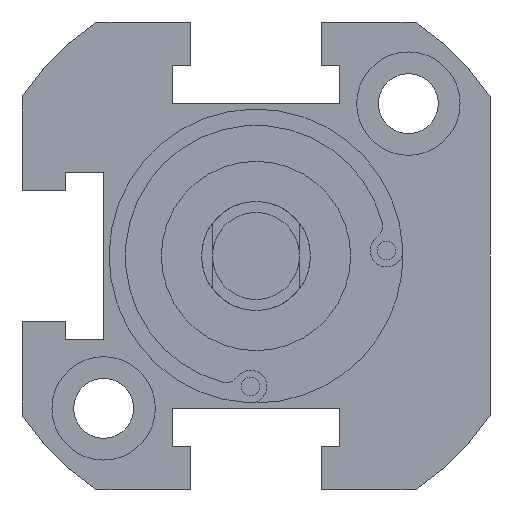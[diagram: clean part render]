
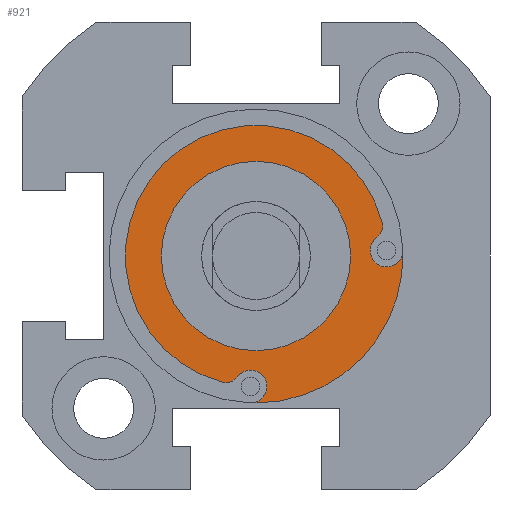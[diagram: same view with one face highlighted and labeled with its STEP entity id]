
A CAD part, front view. The second image highlights one B-rep face of the part: STEP entity #921.
In plain terms, the highlighted planar face has unit normal (0, -1, 0).
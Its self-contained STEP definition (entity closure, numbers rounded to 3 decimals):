
#18 = CIRCLE ( 'NONE', #101, 1.5 ) ;
#78 = AXIS2_PLACEMENT_3D ( 'NONE', #944, #3058, #151 ) ;
#101 = AXIS2_PLACEMENT_3D ( 'NONE', #3079, #945, #2713 ) ;
#150 = CIRCLE ( 'NONE', #1636, 12. ) ;
#151 = DIRECTION ( 'NONE',  ( 0., 0., 1. ) ) ;
#152 = CARTESIAN_POINT ( 'NONE',  ( 0., -35.5, 0. ) ) ;
#161 = EDGE_CURVE ( 'NONE', #1587, #822, #657, .T. ) ;
#181 = ORIENTED_EDGE ( 'NONE', *, *, #1681, .T. ) ;
#183 = AXIS2_PLACEMENT_3D ( 'NONE', #1350, #1337, #1030 ) ;
#247 = CARTESIAN_POINT ( 'NONE',  ( -2.754, -35.5, -10.339 ) ) ;
#402 = VERTEX_POINT ( 'NONE', #452 ) ;
#452 = CARTESIAN_POINT ( 'NONE',  ( -0.444, -35.5, -13.493 ) ) ;
#502 = DIRECTION ( 'NONE',  ( 0., 0., 1. ) ) ;
#505 = CARTESIAN_POINT ( 'NONE',  ( 10.339, -35.5, 2.754 ) ) ;
#510 = CARTESIAN_POINT ( 'NONE',  ( -3.089, -35.5, -11.596 ) ) ;
#568 = CARTESIAN_POINT ( 'NONE',  ( -2.754, -35.5, -10.339 ) ) ;
#657 = CIRCLE ( 'NONE', #1753, 8.7 ) ;
#665 = CARTESIAN_POINT ( 'NONE',  ( 0., -35.5, 8.7 ) ) ;
#669 = VERTEX_POINT ( 'NONE', #1693 ) ;
#680 = ORIENTED_EDGE ( 'NONE', *, *, #2315, .F. ) ;
#691 = EDGE_CURVE ( 'NONE', #2995, #2011, #150, .T. ) ;
#767 = DIRECTION ( 'NONE',  ( 0., 0., 1. ) ) ;
#771 = DIRECTION ( 'NONE',  ( 0., 0., -1. ) ) ;
#822 = VERTEX_POINT ( 'NONE', #2520 ) ;
#853 = CARTESIAN_POINT ( 'NONE',  ( -1.705, -35.5, -11.107 ) ) ;
#921 = ADVANCED_FACE ( 'NONE', ( #1260, #3174 ), #2239, .T. ) ;
#936 = DIRECTION ( 'NONE',  ( 0., 1., 0. ) ) ;
#944 = CARTESIAN_POINT ( 'NONE',  ( 11.994, -35.5, 0.495 ) ) ;
#945 = DIRECTION ( 'NONE',  ( 0., 1., 0. ) ) ;
#952 = CARTESIAN_POINT ( 'NONE',  ( 0., -35.5, 0. ) ) ;
#1030 = DIRECTION ( 'NONE',  ( 0., 0., 1. ) ) ;
#1168 = CARTESIAN_POINT ( 'NONE',  ( 13.493, -35.5, 0.444 ) ) ;
#1177 = CARTESIAN_POINT ( 'NONE',  ( 11.596, -35.5, 3.089 ) ) ;
#1242 = CARTESIAN_POINT ( 'NONE',  ( 11.107, -35.5, 1.705 ) ) ;
#1258 = VERTEX_POINT ( 'NONE', #1168 ) ;
#1260 = FACE_OUTER_BOUND ( 'NONE', #3002, .T. ) ;
#1274 = CARTESIAN_POINT ( 'NONE',  ( 11.994, -35.5, 0.495 ) ) ;
#1293 = DIRECTION ( 'NONE',  ( 0., 1., 0. ) ) ;
#1302 = ORIENTED_EDGE ( 'NONE', *, *, #3495, .T. ) ;
#1304 = AXIS2_PLACEMENT_3D ( 'NONE', #1274, #2160, #2475 ) ;
#1337 = DIRECTION ( 'NONE',  ( 0., 1., 0. ) ) ;
#1350 = CARTESIAN_POINT ( 'NONE',  ( 0., -35.5, 0. ) ) ;
#1451 = VERTEX_POINT ( 'NONE', #3333 ) ;
#1509 = CIRCLE ( 'NONE', #183, 13.5 ) ;
#1531 = EDGE_CURVE ( 'NONE', #1725, #1451, #2509, .T. ) ;
#1587 = VERTEX_POINT ( 'NONE', #665 ) ;
#1605 = EDGE_CURVE ( 'NONE', #1451, #1258, #2407, .T. ) ;
#1636 = AXIS2_PLACEMENT_3D ( 'NONE', #3439, #1293, #3067 ) ;
#1657 = DIRECTION ( 'NONE',  ( 0., -1., 0. ) ) ;
#1664 = AXIS2_PLACEMENT_3D ( 'NONE', #505, #2592, #771 ) ;
#1667 = CIRCLE ( 'NONE', #2774, 1.3 ) ;
#1681 = EDGE_CURVE ( 'NONE', #3260, #402, #18, .T. ) ;
#1693 = CARTESIAN_POINT ( 'NONE',  ( -2.754, -35.5, -11.639 ) ) ;
#1725 = VERTEX_POINT ( 'NONE', #1242 ) ;
#1753 = AXIS2_PLACEMENT_3D ( 'NONE', #952, #936, #3038 ) ;
#1963 = CARTESIAN_POINT ( 'NONE',  ( 0., -35.5, 0. ) ) ;
#2011 = VERTEX_POINT ( 'NONE', #1177 ) ;
#2055 = AXIS2_PLACEMENT_3D ( 'NONE', #568, #2675, #2098 ) ;
#2056 = VERTEX_POINT ( 'NONE', #2377 ) ;
#2065 = ORIENTED_EDGE ( 'NONE', *, *, #2986, .T. ) ;
#2098 = DIRECTION ( 'NONE',  ( 0., 0., -1. ) ) ;
#2132 = ORIENTED_EDGE ( 'NONE', *, *, #3681, .F. ) ;
#2160 = DIRECTION ( 'NONE',  ( 0., -1., 0. ) ) ;
#2239 = PLANE ( 'NONE',  #2685 ) ;
#2247 = DIRECTION ( 'NONE',  ( 0., 0., 1. ) ) ;
#2315 = EDGE_CURVE ( 'NONE', #2056, #402, #2896, .T. ) ;
#2344 = DIRECTION ( 'NONE',  ( 0., -1., 0. ) ) ;
#2348 = EDGE_CURVE ( 'NONE', #1725, #2011, #3892, .T. ) ;
#2350 = CIRCLE ( 'NONE', #2055, 1.3 ) ;
#2377 = CARTESIAN_POINT ( 'NONE',  ( 0., -35.5, -13.5 ) ) ;
#2407 = CIRCLE ( 'NONE', #1304, 1.5 ) ;
#2423 = DIRECTION ( 'NONE',  ( 0., 0., -1. ) ) ;
#2439 = ORIENTED_EDGE ( 'NONE', *, *, #2611, .T. ) ;
#2474 = ORIENTED_EDGE ( 'NONE', *, *, #691, .F. ) ;
#2475 = DIRECTION ( 'NONE',  ( 0., 0., 1. ) ) ;
#2509 = CIRCLE ( 'NONE', #78, 1.5 ) ;
#2520 = CARTESIAN_POINT ( 'NONE',  ( 0., -35.5, -8.7 ) ) ;
#2555 = DIRECTION ( 'NONE',  ( 0., 1., 0. ) ) ;
#2592 = DIRECTION ( 'NONE',  ( 0., -1., 0. ) ) ;
#2596 = AXIS2_PLACEMENT_3D ( 'NONE', #152, #2555, #2247 ) ;
#2611 = EDGE_CURVE ( 'NONE', #2995, #669, #1667, .T. ) ;
#2675 = DIRECTION ( 'NONE',  ( 0., -1., 0. ) ) ;
#2685 = AXIS2_PLACEMENT_3D ( 'NONE', #2859, #1657, #767 ) ;
#2713 = DIRECTION ( 'NONE',  ( 0., 0., 1. ) ) ;
#2774 = AXIS2_PLACEMENT_3D ( 'NONE', #247, #2344, #2423 ) ;
#2859 = CARTESIAN_POINT ( 'NONE',  ( 0., -35.5, 0. ) ) ;
#2896 = CIRCLE ( 'NONE', #2596, 13.5 ) ;
#2905 = ORIENTED_EDGE ( 'NONE', *, *, #1605, .F. ) ;
#2917 = DIRECTION ( 'NONE',  ( 0., 1., 0. ) ) ;
#2920 = ORIENTED_EDGE ( 'NONE', *, *, #1531, .F. ) ;
#2986 = EDGE_CURVE ( 'NONE', #822, #1587, #3471, .T. ) ;
#2995 = VERTEX_POINT ( 'NONE', #510 ) ;
#3002 = EDGE_LOOP ( 'NONE', ( #2474, #2439, #1302, #181, #680, #2132, #2905, #2920, #3320 ) ) ;
#3038 = DIRECTION ( 'NONE',  ( 0., 0., 1. ) ) ;
#3058 = DIRECTION ( 'NONE',  ( 0., -1., 0. ) ) ;
#3067 = DIRECTION ( 'NONE',  ( 0., 0., 1. ) ) ;
#3079 = CARTESIAN_POINT ( 'NONE',  ( -0.495, -35.5, -11.994 ) ) ;
#3111 = AXIS2_PLACEMENT_3D ( 'NONE', #1963, #2917, #502 ) ;
#3174 = FACE_BOUND ( 'NONE', #3349, .T. ) ;
#3252 = ORIENTED_EDGE ( 'NONE', *, *, #161, .T. ) ;
#3260 = VERTEX_POINT ( 'NONE', #853 ) ;
#3320 = ORIENTED_EDGE ( 'NONE', *, *, #2348, .T. ) ;
#3333 = CARTESIAN_POINT ( 'NONE',  ( 11.994, -35.5, -1.005 ) ) ;
#3349 = EDGE_LOOP ( 'NONE', ( #2065, #3252 ) ) ;
#3439 = CARTESIAN_POINT ( 'NONE',  ( 0., -35.5, 0. ) ) ;
#3471 = CIRCLE ( 'NONE', #3111, 8.7 ) ;
#3495 = EDGE_CURVE ( 'NONE', #669, #3260, #2350, .T. ) ;
#3681 = EDGE_CURVE ( 'NONE', #1258, #2056, #1509, .T. ) ;
#3892 = CIRCLE ( 'NONE', #1664, 1.3 ) ;
